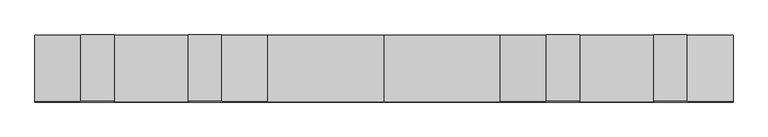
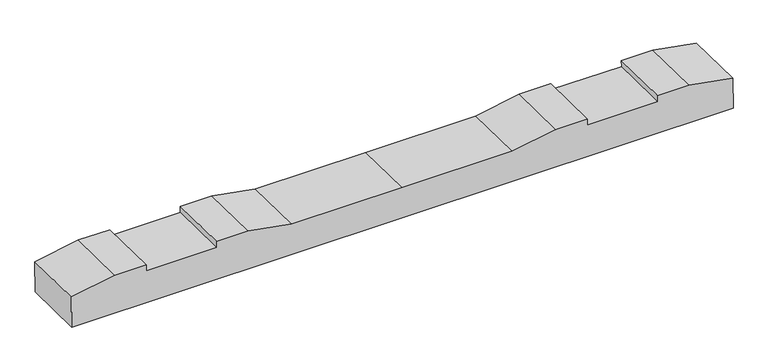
"""IFC4 building model written with IfcOpenShell, lengths in millimetres: proxy geometry, 轨枕-立面角度 : 轨枕-立面角度."""

import ifcopenshell
import ifcopenshell.guid

model = None  # the IFC model being written
_history = None  # IfcOwnerHistory: only IFC2X3 demands one
_inside = {}  # id of a spatial element -> (the spatial element, [elements in it])
_under = {}  # id of a project, library or spatial element -> (it, [spatial elements below it])
_declared = {}  # id of a project -> (the project, [libraries it declares])
_typed = {}  # id of a type object -> (the type object, [elements of that type])
_made_of = {}  # id of a material, layer set ... -> (it, [elements and type objects made of it])


def new_model(schema):
    """Start an empty IFC model of exactly this schema.

    Asked for "IFC4X3", IfcOpenShell would pick the latest addendum, in which some entities
    have other attributes; the version numbers below select the first issue.
    IFC2X3 requires an IfcOwnerHistory on every rooted entity: one is made here for all.
    """
    global model, _history
    if schema == "IFC4X3":
        model = ifcopenshell.file(schema_version=(4, 3, 0, 0))
    else:
        model = ifcopenshell.file(schema=schema)
    _inside.clear()
    _under.clear()
    _declared.clear()
    _typed.clear()
    _made_of.clear()
    _history = None
    if model.schema == "IFC2X3":
        org = make("IfcOrganization", Name="unknown")
        user = make(
            "IfcPersonAndOrganization",
            ThePerson=make("IfcPerson", FamilyName="unknown"),
            TheOrganization=org,
        )
        app = make(
            "IfcApplication",
            ApplicationDeveloper=org,
            Version="unknown",
            ApplicationFullName="unknown",
            ApplicationIdentifier="unknown",
        )
        _history = make(
            "IfcOwnerHistory",
            OwningUser=user,
            OwningApplication=app,
            ChangeAction="ADDED",
            CreationDate=0,
        )
    return model


def make(cls, **values):
    """One entity of the class cls with the attributes given. An attribute that is None is left unset."""
    return model.create_entity(
        cls, **{name: value for name, value in values.items() if value is not None}
    )


def rooted(cls, **values):
    """An entity with a GlobalId (a new one), such as an element, a storey or a relation."""
    return make(cls, GlobalId=ifcopenshell.guid.new(), OwnerHistory=_history, **values)


def si_unit(unit_type, name, prefix=None):
    """IfcSIUnit, for example si_unit("LENGTHUNIT", "METRE", prefix="MILLI")."""
    return make("IfcSIUnit", UnitType=unit_type, Prefix=prefix, Name=name)


def assignment(units):
    """IfcUnitAssignment: the units of a project."""
    return None if units is None else make("IfcUnitAssignment", Units=units)


def point(xyz):
    """IfcCartesianPoint."""
    return None if xyz is None else make("IfcCartesianPoint", Coordinates=xyz)


def direction(xyz):
    """IfcDirection."""
    return None if xyz is None else make("IfcDirection", DirectionRatios=xyz)


def frame(location, z_axis=None, x_axis=None):
    """IfcAxis2Placement3D, a coordinate frame: its origin and axes. An axis left out is left unset."""
    return make(
        "IfcAxis2Placement3D",
        Location=point(location),
        Axis=direction(z_axis),
        RefDirection=direction(x_axis),
    )


def origin():
    """The frame at (0, 0, 0) with its axes left unset."""
    return frame((0.0, 0.0, 0.0))


def place(relative_to, where):
    """IfcLocalPlacement: puts the frame where relative to a parent placement (None: the world)."""
    return make(
        "IfcLocalPlacement", PlacementRelTo=relative_to, RelativePlacement=where
    )


def context(
    kind, dimensions, precision=None, world=None, true_north=None, identifier=None
):
    """IfcGeometricRepresentationContext, for example the 3D "Model" context."""
    return make(
        "IfcGeometricRepresentationContext",
        ContextIdentifier=identifier,
        ContextType=kind,
        CoordinateSpaceDimension=dimensions,
        Precision=precision,
        WorldCoordinateSystem=world,
        TrueNorth=true_north,
    )


def project(units=None, contexts=None):
    """IfcProject with its units and contexts."""
    return rooted(
        "IfcProject",
        Name="project",
        RepresentationContexts=contexts,
        UnitsInContext=assignment(units),
    )


def spatial(cls, under=None, at=None, **own):
    """A site, building, storey or space (cls), placed at a placement, below another one or the project."""
    s = rooted(cls, ObjectPlacement=at, **own)
    if under is not None:
        _under.setdefault(under.id(), (under, []))[1].append(s)
    return s


def polyline(points):
    """IfcPolyline through the points."""
    return make("IfcPolyline", Points=[point(p) for p in points])


def outline(outer, holes=None, kind="AREA"):
    """IfcArbitraryClosedProfileDef: a profile drawn as a closed curve; with holes, ...WithVoids."""
    if holes is None:
        return make("IfcArbitraryClosedProfileDef", ProfileType=kind, OuterCurve=outer)
    return make(
        "IfcArbitraryProfileDefWithVoids",
        ProfileType=kind,
        OuterCurve=outer,
        InnerCurves=holes,
    )


def extrude(swept, where, along, depth):
    """IfcExtrudedAreaSolid: the profile swept, set in the frame where, extruded along a direction by depth."""
    return make(
        "IfcExtrudedAreaSolid",
        SweptArea=swept,
        Position=where,
        ExtrudedDirection=direction(along),
        Depth=depth,
    )


def shape(context_of_items, identifier, shape_type, items):
    """IfcShapeRepresentation: the items that make up one representation, for example the "Body"."""
    return make(
        "IfcShapeRepresentation",
        ContextOfItems=context_of_items,
        RepresentationIdentifier=identifier,
        RepresentationType=shape_type,
        Items=items,
    )


def source(mapping_origin, context_of_items, identifier, shape_type, items):
    """IfcRepresentationMap: a shape defined once, which mapped items show again and again."""
    return make(
        "IfcRepresentationMap",
        MappingOrigin=mapping_origin,
        MappedRepresentation=shape(context_of_items, identifier, shape_type, items),
    )


def transform(
    local_origin,
    x_axis=None,
    y_axis=None,
    z_axis=None,
    scale=None,
    scale2=None,
    scale3=None,
    uniform=True,
):
    """IfcCartesianTransformationOperator3D, or its non-uniform kind. x_axis, y_axis, z_axis: its Axis1, 2, 3."""
    if uniform:
        return make(
            "IfcCartesianTransformationOperator3D",
            Axis1=direction(x_axis),
            Axis2=direction(y_axis),
            LocalOrigin=point(local_origin),
            Scale=scale,
            Axis3=direction(z_axis),
        )
    return make(
        "IfcCartesianTransformationOperator3DnonUniform",
        Axis1=direction(x_axis),
        Axis2=direction(y_axis),
        LocalOrigin=point(local_origin),
        Scale=scale,
        Axis3=direction(z_axis),
        Scale2=scale2,
        Scale3=scale3,
    )


def mapped(mapping_source, mapping_target):
    """IfcMappedItem: shows the shape of a source again, moved by a transform."""
    return make(
        "IfcMappedItem", MappingSource=mapping_source, MappingTarget=mapping_target
    )


def made_of(thing, what):
    """Note that an element or type object is made of a material, layer set ...; save() writes the relation."""
    if what is not None:
        _made_of.setdefault(what.id(), (what, []))[1].append(thing)
    return thing


def element(
    cls,
    number,
    at=None,
    inside=None,
    cuts=None,
    type_object=None,
    material=None,
    context=None,
    identifier="Body",
    shape_type=None,
    held_by="IfcProductDefinitionShape",
    body=None,
    shapes=None,
    **own,
):
    """One element of the class cls, such as IfcWall. Its Tag is "e" and its number.

    at: its placement. inside: the storey or other place that contains it. cuts: it is an
    opening in that element (IfcRelVoidsElement). A single representation is given by context,
    identifier, shape_type and body (its items); several are given by shapes. held_by: the class
    of the entity that holds the representations. save() writes the other relations.
    """
    e = rooted(cls, Tag="e%d" % number, ObjectPlacement=at, **own)
    if body is not None:
        shapes = [shape(context, identifier, shape_type, body)]
    if shapes is not None:
        e.Representation = make(held_by, Representations=shapes)
    if inside is not None:
        _inside.setdefault(inside.id(), (inside, []))[1].append(e)
    if cuts is not None:
        rooted(
            "IfcRelVoidsElement", RelatingBuildingElement=cuts, RelatedOpeningElement=e
        )
    if type_object is not None:
        _typed.setdefault(type_object.id(), (type_object, []))[1].append(e)
    return made_of(e, material)


def aggregate(whole, parts):
    """IfcRelAggregates: a whole, such as a stair, and the parts it consists of."""
    return rooted("IfcRelAggregates", RelatingObject=whole, RelatedObjects=parts)


def save(model, path):
    """Write the relations noted so far, then the file.

    IfcRelAggregates (storeys below a building ...), IfcRelContainedInSpatialStructure (elements
    in a storey), IfcRelDefinesByType, IfcRelAssociatesMaterial and IfcRelDeclares: one each for
    every whole, place, type object, material and project.
    """
    for whole, parts in _under.values():
        aggregate(whole, parts)
    for where, things in _inside.values():
        rooted(
            "IfcRelContainedInSpatialStructure",
            RelatedElements=things,
            RelatingStructure=where,
        )
    for kind, things in _typed.values():
        rooted("IfcRelDefinesByType", RelatedObjects=things, RelatingType=kind)
    for what, things in _made_of.values():
        rooted("IfcRelAssociatesMaterial", RelatedObjects=things, RelatingMaterial=what)
    for by, libraries in _declared.values():
        rooted("IfcRelDeclares", RelatingContext=by, RelatedDefinitions=libraries)
    model.write(path)


def generic_models_ea4c993b(model_context):
    return source(origin(), model_context, "Body", "SweptSolid", [
        extrude(outline(polyline([(0.0, 0.0), (0.0, -100.020689), (-137.8834664, -124.5), (-237.8834664, -124.5), (-237.8834664, -104.5), (-461.8834664, -104.5), (-461.8834664, -124.5), (-561.8834664, -124.5), (-699.8834664, -100.0), (-1049.8834664, -100.0), (-1399.8834664, -100.0), (-1537.8834664, -124.5), (-1637.8834664, -124.5), (-1637.8834664, -104.5), (-1861.8834664, -104.5), (-1861.8834664, -124.5), (-1961.8834664, -124.5), (-2099.7669328, -100.020689), (-2099.7669328, 0.0), (0.0, 0.0)])), frame((-1049.8834664, 98.4725991, -105.9405363), z_axis=(0.0, -0.9998946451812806, 0.014515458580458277), x_axis=(-1.0, 0.0, 0.0)), (0.0, 0.0, 1.0), 200.0),
    ])


if __name__ == "__main__":
    model = new_model("IFC4")
    model_context = context("Model", 3, world=origin())
    ifc_project = project(units=[si_unit("LENGTHUNIT", "METRE", prefix="MILLI")], contexts=[model_context])
    site = spatial("IfcSite", under=ifc_project)
    building = spatial("IfcBuilding", under=site)
    placement = place(None, origin())
    generic_models_shape = generic_models_ea4c993b(model_context)
    element("IfcBuildingElementProxy", 1, Name="轨枕-立面角度 : 轨枕-立面角度", ObjectType="轨枕-立面角度 : 轨枕-立面角度", at=placement, inside=building, context=model_context, shape_type="MappedRepresentation", body=[
        mapped(generic_models_shape, transform((0.0, 0.0, 0.0), x_axis=(1.0, 0.0, 0.0), y_axis=(0.0, 1.0, 0.0), z_axis=(0.0, 0.0, 1.0))),
    ])
    save(model, "model.ifc")
